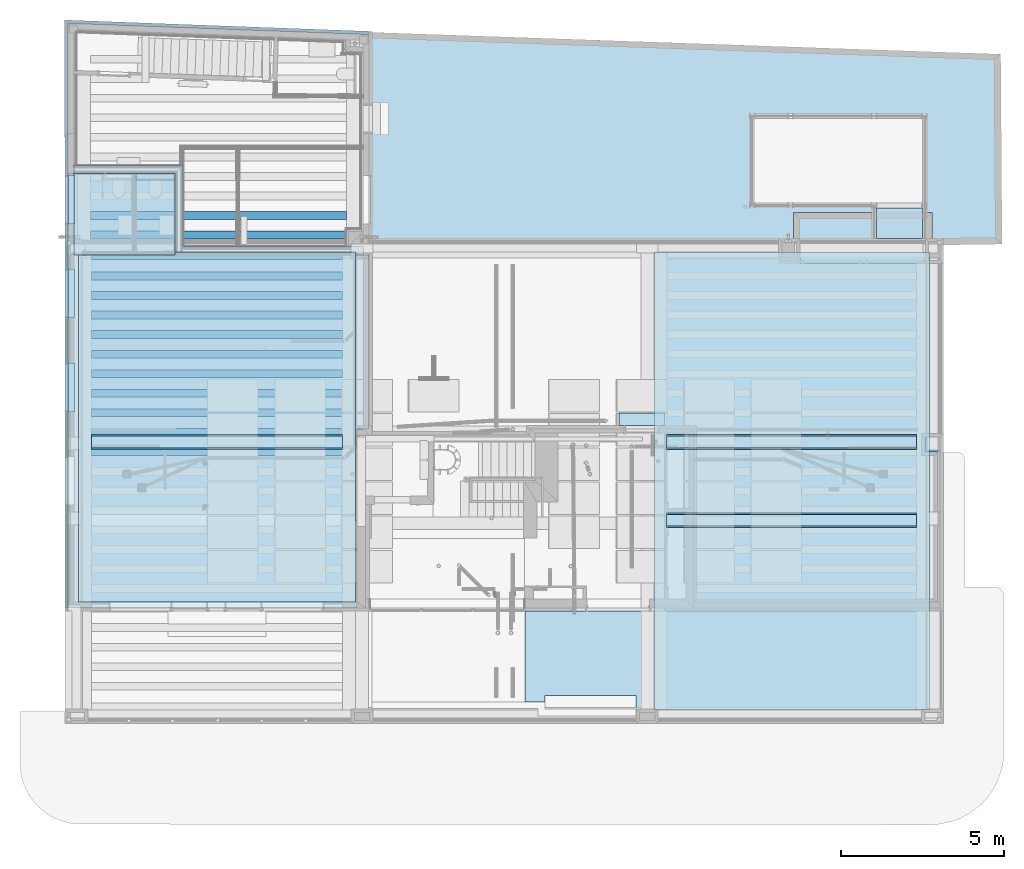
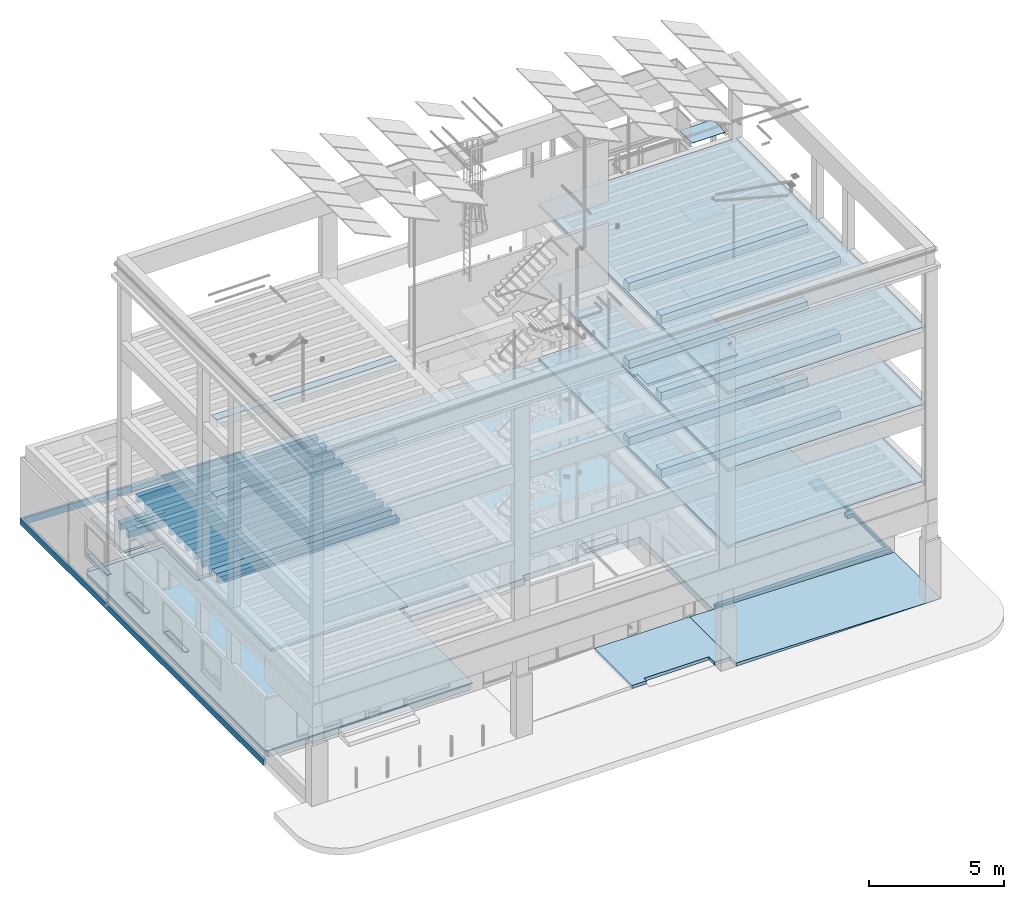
# One storey, part 19 of 106: 48 slabs.
"""IFC2X3 building model written with IfcOpenShell, lengths in metres."""

from ifc_helpers import new_model, entity, si_unit, converted_unit, derived_unit, money_unit, direction, frame, origin_with_axes, place, context, subcontext, project, spatial, faceted_brep, material, type_object, element, save


model = new_model("IFC2X3")

# Units and contexts
model_context = context("Model", 3, precision=1e-05, world=origin_with_axes(), true_north=direction((0.0, 1.0)))
body_context = subcontext(model_context, "Body", "Model", "MODEL_VIEW", scale=1.0)
ifc_project = project(units=[si_unit("LENGTHUNIT", "METRE"), si_unit("AREAUNIT", "SQUARE_METRE"), si_unit("VOLUMEUNIT", "CUBIC_METRE"), si_unit("ABSORBEDDOSEUNIT", "GRAY"), si_unit("AMOUNTOFSUBSTANCEUNIT", "MOLE"), si_unit("DOSEEQUIVALENTUNIT", "SIEVERT"), si_unit("ELECTRICCAPACITANCEUNIT", "FARAD"), si_unit("ELECTRICCHARGEUNIT", "COULOMB"), si_unit("ELECTRICCONDUCTANCEUNIT", "SIEMENS"), si_unit("ELECTRICCURRENTUNIT", "AMPERE"), si_unit("ELECTRICRESISTANCEUNIT", "OHM"), si_unit("ELECTRICVOLTAGEUNIT", "VOLT"), si_unit("ENERGYUNIT", "JOULE"), si_unit("FORCEUNIT", "NEWTON"), si_unit("FREQUENCYUNIT", "HERTZ"), si_unit("ILLUMINANCEUNIT", "LUX"), si_unit("INDUCTANCEUNIT", "HENRY"), si_unit("LUMINOUSFLUXUNIT", "LUMEN"), si_unit("LUMINOUSINTENSITYUNIT", "CANDELA"), si_unit("MAGNETICFLUXDENSITYUNIT", "TESLA"), si_unit("MAGNETICFLUXUNIT", "WEBER"), si_unit("MASSUNIT", "GRAM"), converted_unit("PLANEANGLEUNIT", "degree", entity("IfcReal", 0.0174532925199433), si_unit("PLANEANGLEUNIT", "RADIAN"), dimensions=[0, 0, 0, 0, 0, 0, 0]), si_unit("POWERUNIT", "WATT"), si_unit("PRESSUREUNIT", "PASCAL"), si_unit("RADIOACTIVITYUNIT", "BECQUEREL"), si_unit("SOLIDANGLEUNIT", "STERADIAN"), si_unit("THERMODYNAMICTEMPERATUREUNIT", "KELVIN"), si_unit("TIMEUNIT", "SECOND"), derived_unit("ACCELERATIONUNIT", [(si_unit("LENGTHUNIT", "METRE"), 1), (si_unit("TIMEUNIT", "SECOND"), -2)]), derived_unit("ANGULARVELOCITYUNIT", [(converted_unit("PLANEANGLEUNIT", "degree", entity("IfcReal", 0.0174532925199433), si_unit("PLANEANGLEUNIT", "RADIAN"), dimensions=[0, 0, 0, 0, 0, 0, 0]), 1), (si_unit("TIMEUNIT", "SECOND"), -1)]), derived_unit("CURVATUREUNIT", [(converted_unit("PLANEANGLEUNIT", "degree", entity("IfcReal", 0.0174532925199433), si_unit("PLANEANGLEUNIT", "RADIAN"), dimensions=[0, 0, 0, 0, 0, 0, 0]), 1), (si_unit("LENGTHUNIT", "METRE"), -1)]), derived_unit("DYNAMICVISCOSITYUNIT", [(si_unit("PRESSUREUNIT", "PASCAL"), 1), (si_unit("TIMEUNIT", "SECOND"), 1)]), derived_unit("HEATFLUXDENSITYUNIT", [(si_unit("POWERUNIT", "WATT"), 1), (si_unit("LENGTHUNIT", "METRE"), -2)]), derived_unit("HEATINGVALUEUNIT", [(si_unit("ENERGYUNIT", "JOULE"), 1), (si_unit("MASSUNIT", "GRAM"), -1)]), derived_unit("INTEGERCOUNTRATEUNIT", [(si_unit("TIMEUNIT", "SECOND"), -1)]), derived_unit("IONCONCENTRATIONUNIT", [(si_unit("MASSUNIT", "GRAM"), 1), (si_unit("VOLUMEUNIT", "CUBIC_METRE"), -1)]), derived_unit("ISOTHERMALMOISTURECAPACITYUNIT", [(si_unit("VOLUMEUNIT", "CUBIC_METRE"), 1), (si_unit("MASSUNIT", "GRAM"), -1)]), derived_unit("KINEMATICVISCOSITYUNIT", [(si_unit("AREAUNIT", "SQUARE_METRE"), 1), (si_unit("TIMEUNIT", "SECOND"), -1)]), derived_unit("LINEARFORCEUNIT", [(si_unit("FORCEUNIT", "NEWTON"), 1), (si_unit("LENGTHUNIT", "METRE"), -1)]), derived_unit("LINEARMOMENTUNIT", [(si_unit("FORCEUNIT", "NEWTON"), 1), (si_unit("LENGTHUNIT", "METRE"), -1)]), derived_unit("LINEARSTIFFNESSUNIT", [(si_unit("FORCEUNIT", "NEWTON"), 1), (si_unit("LENGTHUNIT", "METRE"), -1)]), derived_unit("LINEARVELOCITYUNIT", [(si_unit("LENGTHUNIT", "METRE"), 1), (si_unit("TIMEUNIT", "SECOND"), -1)]), derived_unit("LUMINOUSINTENSITYDISTRIBUTIONUNIT", [(si_unit("LUMINOUSINTENSITYUNIT", "CANDELA"), 1), (si_unit("LUMINOUSFLUXUNIT", "LUMEN"), -1)]), derived_unit("MASSDENSITYUNIT", [(si_unit("MASSUNIT", "GRAM"), 1), (si_unit("VOLUMEUNIT", "CUBIC_METRE"), -1)]), derived_unit("MASSFLOWRATEUNIT", [(si_unit("MASSUNIT", "GRAM"), 1), (si_unit("TIMEUNIT", "SECOND"), -1)]), derived_unit("MASSPERLENGTHUNIT", [(si_unit("MASSUNIT", "GRAM"), 1), (si_unit("LENGTHUNIT", "METRE"), -1)]), derived_unit("MODULUSOFELASTICITYUNIT", [(si_unit("FORCEUNIT", "NEWTON"), 1), (si_unit("AREAUNIT", "SQUARE_METRE"), -1)]), derived_unit("MODULUSOFLINEARSUBGRADEREACTIONUNIT", [(si_unit("FORCEUNIT", "NEWTON"), 1), (si_unit("LENGTHUNIT", "METRE"), -2)]), derived_unit("MODULUSOFROTATIONALSUBGRADEREACTIONUNIT", [(si_unit("FORCEUNIT", "NEWTON"), 1), (si_unit("LENGTHUNIT", "METRE"), 1)]), derived_unit("MODULUSOFSUBGRADEREACTIONUNIT", [(si_unit("FORCEUNIT", "NEWTON"), 1), (si_unit("VOLUMEUNIT", "CUBIC_METRE"), -1)]), derived_unit("MOISTUREDIFFUSIVITYUNIT", [(si_unit("VOLUMEUNIT", "CUBIC_METRE"), 1), (si_unit("TIMEUNIT", "SECOND"), -1)]), derived_unit("MOLECULARWEIGHTUNIT", [(si_unit("MASSUNIT", "GRAM"), 1), (si_unit("AMOUNTOFSUBSTANCEUNIT", "MOLE"), -1)]), derived_unit("PLANARFORCEUNIT", [(si_unit("FORCEUNIT", "NEWTON"), 1), (si_unit("LENGTHUNIT", "METRE"), -2)]), derived_unit("ROTATIONALFREQUENCYUNIT", [(si_unit("TIMEUNIT", "SECOND"), -1)]), derived_unit("ROTATIONALMASSUNIT", [(si_unit("MASSUNIT", "GRAM"), 1), (si_unit("LENGTHUNIT", "METRE"), 2)]), derived_unit("ROTATIONALSTIFFNESSUNIT", [(si_unit("FORCEUNIT", "NEWTON"), 1), (si_unit("LENGTHUNIT", "METRE"), 1), (converted_unit("PLANEANGLEUNIT", "degree", entity("IfcReal", 0.0174532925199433), si_unit("PLANEANGLEUNIT", "RADIAN"), dimensions=[0, 0, 0, 0, 0, 0, 0]), -1)]), derived_unit("SECTIONAREAINTEGRALUNIT", [(si_unit("LENGTHUNIT", "METRE"), 5)]), derived_unit("SECTIONMODULUSUNIT", [(si_unit("LENGTHUNIT", "METRE"), 3)]), derived_unit("SHEARMODULUSUNIT", [(si_unit("FORCEUNIT", "NEWTON"), 1), (si_unit("AREAUNIT", "SQUARE_METRE"), -1)]), derived_unit("SOUNDPOWERUNIT", [(si_unit("ENERGYUNIT", "JOULE"), 1), (si_unit("TIMEUNIT", "SECOND"), -1)]), derived_unit("SPECIFICHEATCAPACITYUNIT", [(si_unit("FORCEUNIT", "NEWTON"), 1), (si_unit("MASSUNIT", "GRAM"), -1), (si_unit("THERMODYNAMICTEMPERATUREUNIT", "KELVIN"), -1)]), derived_unit("TEMPERATUREGRADIENTUNIT", [(si_unit("THERMODYNAMICTEMPERATUREUNIT", "KELVIN"), 1), (si_unit("LENGTHUNIT", "METRE"), -1)]), derived_unit("THERMALADMITTANCEUNIT", [(si_unit("POWERUNIT", "WATT"), 1), (si_unit("AREAUNIT", "SQUARE_METRE"), -1), (si_unit("THERMODYNAMICTEMPERATUREUNIT", "KELVIN"), -1)]), derived_unit("THERMALCONDUCTANCEUNIT", [(si_unit("POWERUNIT", "WATT"), 1), (si_unit("LENGTHUNIT", "METRE"), -1), (si_unit("THERMODYNAMICTEMPERATUREUNIT", "KELVIN"), -1)]), derived_unit("THERMALEXPANSIONCOEFFICIENTUNIT", [(si_unit("THERMODYNAMICTEMPERATUREUNIT", "KELVIN"), -1)]), derived_unit("THERMALRESISTANCEUNIT", [(si_unit("AREAUNIT", "SQUARE_METRE"), 1), (si_unit("POWERUNIT", "WATT"), -1)]), derived_unit("THERMALTRANSMITTANCEUNIT", [(si_unit("POWERUNIT", "WATT"), 1), (si_unit("AREAUNIT", "SQUARE_METRE"), -1), (si_unit("THERMODYNAMICTEMPERATUREUNIT", "KELVIN"), -1)]), derived_unit("TORQUEUNIT", [(si_unit("FORCEUNIT", "NEWTON"), 1), (si_unit("LENGTHUNIT", "METRE"), 1)]), derived_unit("VAPORPERMEABILITYUNIT", [(si_unit("MASSUNIT", "GRAM"), 1), (si_unit("TIMEUNIT", "SECOND"), -1)]), derived_unit("VOLUMETRICFLOWRATEUNIT", [(si_unit("VOLUMEUNIT", "CUBIC_METRE"), 1), (si_unit("TIMEUNIT", "SECOND"), -1)]), derived_unit("WARPINGCONSTANTUNIT", [(si_unit("LENGTHUNIT", "METRE"), 6)]), derived_unit("WARPINGMOMENTUNIT", [(si_unit("FORCEUNIT", "NEWTON"), 1), (si_unit("LENGTHUNIT", "METRE"), 2)]), money_unit("GBP")], contexts=[model_context])

# Site, building, storey
site_placement = place(None, origin_with_axes())
site = spatial("IfcSite", under=ifc_project, at=site_placement, Name="Site", CompositionType="ELEMENT")
building_placement = place(site_placement, origin_with_axes())
building = spatial("IfcBuilding", under=site, at=building_placement, Name="Building01", CompositionType="ELEMENT")
storey_placement = place(building_placement, origin_with_axes())
storey = spatial("IfcBuildingStorey", under=building, at=storey_placement, Name="GF", CompositionType="ELEMENT", Elevation=0.0)

# Slabs
ifc_material_1 = material(Name="A_BSUK_Slabs")
slab_type_1 = type_object("IfcSlabType", Name="A-FloorsSlabs A_BSUK_Slabs", PredefinedType="FLOOR")
placement = place(storey_placement, origin_with_axes())
element("IfcSlab", 1, at=placement, inside=storey, type_object=slab_type_1, material=ifc_material_1, Name="A-FloorsSlabs A_BSUK_Slabs", ObjectType="CompoundSlabLeaf", context=body_context, shape_type="Brep", body=[
    faceted_brep([(22.371797, 14.897172, 2.44), (22.371797, 14.897172, 2.54), (22.371797, 15.695023, 2.54), (22.371797, 15.695023, 2.44), (22.571797, 14.897172, 2.44), (22.571797, 14.897172, 2.54), (22.577154, 14.134296, 2.44), (22.577154, 14.134296, 2.54), (26.429722, 14.134126, 2.44), (26.429722, 14.134126, 2.54), (26.429767, 14.906552, 2.44), (26.429767, 14.906552, 2.54), (26.629767, 14.909522, 2.44), (26.629767, 14.909522, 2.54), (26.629738, 15.705087, 2.44), (26.629738, 15.705087, 2.54)], [[[0, 1, 2, 3]], [[4, 5, 1, 0]], [[6, 7, 5, 4]], [[8, 9, 7, 6]], [[10, 11, 9, 8]], [[12, 13, 11, 10]], [[14, 15, 13, 12]], [[3, 2, 15, 14]], [[1, 5, 7, 9, 11, 13, 15, 2]], [[3, 14, 12, 10, 8, 6, 4, 0]]]),
])
element("IfcSlab", 2, at=placement, inside=storey, type_object=slab_type_1, material=ifc_material_1, Name="A-FloorsSlabs A_BSUK_Slabs", ObjectType="CompoundSlabLeaf", context=body_context, shape_type="Brep", body=[
    faceted_brep([(9.343127, 8.87141, -0.46), (9.343127, 8.87141, -0.16), (9.343127, 21.237229, -0.16), (9.343127, 21.237229, -0.46), (14.27235, 8.87141, -0.46), (14.27235, 8.87141, -0.16), (14.27235, 9.053145, -0.46), (14.27235, 9.053145, -0.16), (19.302772, 9.053145, -0.46), (19.302772, 9.053145, -0.16), (19.302772, 3.559165, -0.46), (19.302772, 3.559165, -0.16), (26.98149, 3.559165, -0.46), (26.98149, 3.559165, -0.16), (26.98149, 6.112111, -0.46), (26.98149, 6.112111, -0.16), (26.98149, 6.511753, -0.46), (26.98149, 6.511753, -0.16), (26.98149, 8.237758, -0.46), (26.98149, 8.237758, -0.16), (26.98149, 8.909531, -0.46), (26.98149, 8.909531, -0.16), (26.98149, 14.134296, -0.46), (26.98149, 14.134296, -0.16), (26.981639, 14.134296, -0.46), (26.981639, 14.134296, -0.16), (26.981707, 14.702806, -0.46), (26.981707, 14.702806, -0.16), (28.782327, 14.728819, -0.46), (28.782327, 14.728819, -0.16), (28.739658, 20.563839, -0.46), (28.739658, 20.563839, -0.16)], [[[0, 1, 2, 3]], [[4, 5, 1, 0]], [[6, 7, 5, 4]], [[8, 9, 7, 6]], [[10, 11, 9, 8]], [[12, 13, 11, 10]], [[14, 15, 13, 12]], [[16, 17, 15, 14]], [[18, 19, 17, 16]], [[20, 21, 19, 18]], [[22, 23, 21, 20]], [[24, 25, 23, 22]], [[26, 27, 25, 24]], [[28, 29, 27, 26]], [[30, 31, 29, 28]], [[3, 2, 31, 30]], [[1, 5, 7, 9, 11, 13, 15, 17, 19, 21, 23, 25, 27, 29, 31, 2]], [[3, 30, 28, 26, 24, 22, 20, 18, 16, 14, 12, 10, 8, 6, 4, 0]]]),
])
element("IfcSlab", 3, at=placement, inside=storey, type_object=slab_type_1, material=ifc_material_1, Name="A-FloorsSlabs A_BSUK_Slabs", ObjectType="CompoundSlabLeaf", context=body_context, shape_type="Brep", body=[
    faceted_brep([(19.402776, 3.558962, -0.16), (19.402776, 3.558962, 0.0), (19.402776, 3.733962, 0.0), (19.402776, 3.733962, -0.16), (26.881285, 3.558962, -0.16), (26.881285, 3.558962, 0.0), (26.881285, 8.809531, -0.16), (26.881285, 8.809531, 0.0), (26.414179, 8.809531, -0.16), (26.414179, 8.809531, 0.0), (26.414179, 8.337758, -0.16), (26.414179, 8.337758, 0.0), (26.795161, 8.337758, -0.16), (26.795161, 8.337758, 0.0), (26.795161, 6.411749, -0.16), (26.795161, 6.411749, 0.0), (26.548156, 6.411749, -0.16), (26.548156, 6.411749, 0.0), (26.548156, 6.212116, -0.16), (26.548156, 6.212116, 0.0), (26.795153, 6.212107, -0.16), (26.795153, 6.212107, 0.0), (26.795285, 3.733574, -0.16), (26.795285, 3.733574, 0.0)], [[[0, 1, 2, 3]], [[4, 5, 1, 0]], [[6, 7, 5, 4]], [[8, 9, 7, 6]], [[10, 11, 9, 8]], [[12, 13, 11, 10]], [[14, 15, 13, 12]], [[16, 17, 15, 14]], [[18, 19, 17, 16]], [[20, 21, 19, 18]], [[22, 23, 21, 20]], [[3, 2, 23, 22]], [[1, 5, 7, 9, 11, 13, 15, 17, 19, 21, 23, 2]], [[3, 22, 20, 18, 16, 14, 12, 10, 8, 6, 4, 0]]]),
])
element("IfcSlab", 4, at=placement, inside=storey, type_object=slab_type_1, material=ifc_material_1, Name="A-FloorsSlabs A_BSUK_Slabs", ObjectType="CompoundSlabLeaf", context=body_context, shape_type="Brep", body=[
    faceted_brep([(14.124099, 0.672774, -0.145), (14.124099, 0.672774, 0.0), (14.124099, 3.458986, 0.0), (14.124099, 3.458986, -0.145), (14.745621, 0.672774, -0.145), (14.745621, 0.672774, 0.0), (14.745621, 0.858775, -0.145), (14.745621, 0.858775, 0.0), (17.533227, 0.858775, -0.145), (17.533227, 0.858775, 0.0), (17.533227, 0.449009, -0.145), (17.533227, 0.449009, 0.0), (18.19829, 0.449009, -0.145), (18.19829, 0.449009, 0.0), (18.19829, 3.458834, -0.145), (18.19829, 3.458834, 0.0)], [[[0, 1, 2, 3]], [[4, 5, 1, 0]], [[6, 7, 5, 4]], [[8, 9, 7, 6]], [[10, 11, 9, 8]], [[12, 13, 11, 10]], [[14, 15, 13, 12]], [[3, 2, 15, 14]], [[1, 5, 7, 9, 11, 13, 15, 2]], [[3, 14, 12, 10, 8, 6, 4, 0]]]),
])
element("IfcSlab", 5, at=placement, inside=storey, type_object=slab_type_1, material=ifc_material_1, Name="A-FloorsSlabs A_BSUK_Slabs", ObjectType="CompoundSlabLeaf", context=body_context, shape_type="Brep", body=[
    faceted_brep([(18.19829, 3.458341, -0.145), (18.19829, -0.000659, -0.145), (18.19829, -0.000659, 0.0), (18.19829, 3.458341, 0.0), (26.981285, 3.458341, -0.145), (26.981285, -0.000659, -0.145)], [[[0, 1, 2, 3]], [[4, 5, 1, 0]], [[3, 2, 5, 4]], [[1, 5, 2]], [[3, 4, 0]]]),
])
element("IfcSlab", 6, at=placement, inside=storey, type_object=slab_type_1, material=ifc_material_1, Name="A-FloorsSlabs A_BSUK_Slabs", ObjectType="CompoundSlabLeaf", context=body_context, shape_type="Brep", body=[
    faceted_brep([(3.380525, 14.4, 0.148), (3.380525, 14.4, 0.198), (9.343127, 14.4, 0.198), (9.343127, 14.4, 0.148), (3.380525, 16.893628, 0.148), (3.380525, 16.893628, 0.198), (0.089614, 16.893493, 0.148), (0.089614, 16.893493, 0.198), (0.10035, 3.559332, 0.148), (0.10035, 3.559332, 0.198), (8.965099, 3.559165, 0.148), (8.965099, 3.559165, 0.198), (8.965226, 9.049365, 0.148), (8.965226, 9.049365, 0.198), (9.343127, 9.049365, 0.148), (9.343127, 9.049365, 0.198)], [[[0, 1, 2, 3]], [[4, 5, 1, 0]], [[6, 7, 5, 4]], [[8, 9, 7, 6]], [[10, 11, 9, 8]], [[12, 13, 11, 10]], [[14, 15, 13, 12]], [[3, 2, 15, 14]], [[1, 5, 7, 9, 11, 13, 15, 2]], [[3, 14, 12, 10, 8, 6, 4, 0]]]),
])
element("IfcSlab", 7, at=placement, inside=storey, type_object=slab_type_1, material=ifc_material_1, Name="A-FloorsSlabs A_BSUK_Slabs", ObjectType="CompoundSlabLeaf", context=body_context, shape_type="Brep", body=[
    faceted_brep([(9.343265, 21.237229, -0.445), (9.343265, 21.237229, -0.145), (9.343265, 21.166058, -0.145), (9.343265, 21.166058, -0.445), (9.343127, 21.237229, -0.445), (9.343127, 21.237229, -0.145), (9.4435, 21.262408, -0.445), (9.4435, 21.262408, -0.145), (-0.013684, 21.61325, -0.445), (-0.013684, 21.61325, -0.145), (-0.013684, 18.020229, -0.445), (-0.013684, 18.020229, -0.145), (0.000677, 18.020229, -0.445), (0.000677, 18.020229, -0.145), (-0.000238, 3.559142, -0.445), (-0.000238, 3.559142, -0.145), (0.10035, 3.559332, -0.445), (0.10035, 3.559332, -0.145), (0.085897, 21.509487, -0.445), (0.085897, 21.509487, -0.145)], [[[0, 1, 2, 3]], [[4, 5, 1, 0]], [[6, 7, 5, 4]], [[8, 9, 7, 6]], [[10, 11, 9, 8]], [[12, 13, 11, 10]], [[14, 15, 13, 12]], [[16, 17, 15, 14]], [[18, 19, 17, 16]], [[3, 2, 19, 18]], [[1, 5, 7, 9, 11, 13, 15, 17, 19, 2]], [[3, 18, 16, 14, 12, 10, 8, 6, 4, 0]]]),
])
element("IfcSlab", 8, at=placement, inside=storey, type_object=slab_type_1, material=ifc_material_1, Name="A-FloorsSlabs A_BSUK_Slabs", ObjectType="CompoundSlabLeaf", context=body_context, shape_type="Brep", body=[
    faceted_brep([(17.018566, 9.152854, -0.16), (17.018566, 9.152854, 0.0), (17.018566, 9.542818, 0.0), (17.018566, 9.542818, -0.16), (18.418566, 9.152854, -0.16), (18.418566, 9.152854, 0.0), (18.418566, 9.542765, -0.16), (18.418566, 9.542765, 0.0)], [[[0, 1, 2, 3]], [[4, 5, 1, 0]], [[6, 7, 5, 4]], [[3, 2, 7, 6]], [[1, 5, 7, 2]], [[3, 6, 4, 0]]]),
])
ifc_material_2 = material(Name="A_BSUK_Ceramic_WallTiles")
element("IfcSlab", 9, at=placement, inside=storey, type_object=slab_type_1, material=ifc_material_2, Name="A-FloorsSlabs A_BSUK_Slabs", ObjectType="CompoundSlabLeaf", context=body_context, shape_type="Brep", body=[
    faceted_brep([(2.180525, 16.693646, 1.873), (2.180525, 16.693646, 1.898), (2.180525, 16.893647, 1.898), (2.180525, 16.893647, 1.873), (3.380525, 16.69365, 1.873), (3.380525, 16.69365, 1.898), (3.380525, 16.893646, 1.873), (3.380525, 16.893646, 1.898)], [[[0, 1, 2, 3]], [[4, 5, 1, 0]], [[6, 7, 5, 4]], [[3, 2, 7, 6]], [[1, 5, 7, 2]], [[3, 6, 4, 0]]]),
])
element("IfcSlab", 10, at=placement, inside=storey, type_object=slab_type_1, material=ifc_material_1, Name="A-FloorsSlabs A_BSUK_Slabs", ObjectType="CompoundSlabLeaf", context=body_context, shape_type="Brep", body=[
    faceted_brep([(0.280357, 3.733332, -0.252), (0.280357, 3.733332, 0.148), (0.280357, 17.143647, 0.148), (0.280357, 17.143647, -0.252), (8.965501, 3.733332, -0.252), (8.965501, 3.733332, 0.148), (8.965501, 9.035141, -0.252), (8.965501, 9.035141, 0.148), (9.173127, 9.035141, -0.252), (9.173127, 9.035141, 0.148), (9.173127, 14.65, -0.252), (9.173127, 14.65, 0.148), (3.630525, 14.65, -0.252), (3.630525, 14.65, 0.148), (3.630525, 17.143647, -0.252), (3.630525, 17.143647, 0.148)], [[[0, 1, 2, 3]], [[4, 5, 1, 0]], [[6, 7, 5, 4]], [[8, 9, 7, 6]], [[10, 11, 9, 8]], [[12, 13, 11, 10]], [[14, 15, 13, 12]], [[3, 2, 15, 14]], [[1, 5, 7, 9, 11, 13, 15, 2]], [[3, 14, 12, 10, 8, 6, 4, 0]]]),
])
element("IfcSlab", 11, at=placement, inside=storey, type_object=slab_type_1, material=ifc_material_1, Name="A-FloorsSlabs A_BSUK_Slabs", ObjectType="CompoundSlabLeaf", context=body_context, shape_type="Brep", body=[
    faceted_brep([(0.42, 14.477504, 4.46), (0.42, 14.477504, 4.475), (8.925, 14.48, 4.475), (8.925, 14.48, 4.46), (0.42, 3.734123, 4.46), (0.42, 3.734123, 4.475), (8.925, 3.733962, 4.46), (8.925, 3.733962, 4.475), (8.925127, 9.049365, 4.46), (8.925127, 9.049365, 4.475), (8.925, 9.049365, 4.46), (8.925, 9.049365, 4.475)], [[[0, 1, 2, 3]], [[4, 5, 1, 0]], [[6, 7, 5, 4]], [[8, 9, 7, 6]], [[10, 11, 9, 8]], [[3, 2, 11, 10]], [[1, 5, 7, 9, 11, 2]], [[3, 10, 8, 6, 4, 0]]]),
])
element("IfcSlab", 12, at=placement, inside=storey, type_object=slab_type_1, material=ifc_material_1, Name="A-FloorsSlabs A_BSUK_Slabs", ObjectType="CompoundSlabLeaf", context=body_context, shape_type="Brep", body=[
    faceted_brep([(0.42, 14.48, 4.475), (0.42, 14.48, 4.49), (8.925, 14.48, 4.49), (8.925, 14.48, 4.475), (0.42, 3.734123, 4.475), (0.42, 3.734123, 4.49), (8.925, 3.733962, 4.475), (8.925, 3.733962, 4.49), (8.925127, 9.049365, 4.475), (8.925127, 9.049365, 4.49), (8.925, 9.049365, 4.475), (8.925, 9.049365, 4.49)], [[[0, 1, 2, 3]], [[4, 5, 1, 0]], [[6, 7, 5, 4]], [[8, 9, 7, 6]], [[10, 11, 9, 8]], [[3, 2, 11, 10]], [[1, 5, 7, 9, 11, 2]], [[3, 10, 8, 6, 4, 0]]]),
])
element("IfcSlab", 13, at=placement, inside=storey, type_object=slab_type_1, material=ifc_material_1, Name="A-FloorsSlabs A_BSUK_Slabs", ObjectType="CompoundSlabLeaf", context=body_context, shape_type="Brep", body=[
    faceted_brep([(3.380525, 16.893628, 2.495), (3.380525, 16.893628, 2.51), (3.380525, 14.4, 2.51), (3.380525, 14.4, 2.495), (0.280851, 16.893647, 2.495), (0.280851, 16.893647, 2.51), (0.280357, 14.4, 2.495), (0.280357, 14.4, 2.51)], [[[0, 1, 2, 3]], [[4, 5, 1, 0]], [[6, 7, 5, 4]], [[3, 2, 7, 6]], [[1, 5, 7, 2]], [[3, 6, 4, 0]]]),
])
element("IfcSlab", 14, at=placement, inside=storey, type_object=slab_type_1, material=ifc_material_1, Name="A-FloorsSlabs A_BSUK_Slabs", ObjectType="CompoundSlabLeaf", context=body_context, shape_type="Brep", body=[
    faceted_brep([(3.380525, 16.893628, 2.51), (3.380525, 16.893628, 2.525), (3.380525, 14.4, 2.525), (3.380525, 14.4, 2.51), (0.280851, 16.893647, 2.51), (0.280851, 16.893647, 2.525), (0.280757, 14.4, 2.51), (0.280757, 14.4, 2.525)], [[[0, 1, 2, 3]], [[4, 5, 1, 0]], [[6, 7, 5, 4]], [[3, 2, 7, 6]], [[1, 5, 7, 2]], [[3, 6, 4, 0]]]),
])
ifc_material_3 = material(Name="A_BSUK_Timber_Miscellaneous")
element("IfcSlab", 15, at=placement, inside=storey, type_object=slab_type_1, material=ifc_material_3, Name="A-FloorsSlabs A_BSUK_Slabs", ObjectType="CompoundSlabLeaf", context=body_context, shape_type="Brep", body=[
    faceted_brep([(0.100088, 16.844813, 0.998), (0.100088, 16.844813, 1.023), (0.287079, 16.844813, 1.023), (0.287079, 16.844813, 0.998), (0.100088, 15.344813, 0.998), (0.100088, 15.344813, 1.023), (0.287079, 15.344813, 0.998), (0.287079, 15.344813, 1.023)], [[[0, 1, 2, 3]], [[4, 5, 1, 0]], [[6, 7, 5, 4]], [[3, 2, 7, 6]], [[1, 5, 7, 2]], [[3, 6, 4, 0]]]),
])
element("IfcSlab", 16, at=placement, inside=storey, type_object=slab_type_1, material=ifc_material_3, Name="A-FloorsSlabs A_BSUK_Slabs", ObjectType="CompoundSlabLeaf", context=body_context, shape_type="Brep", body=[
    faceted_brep([(0.100088, 13.971016, 0.998), (0.100088, 13.971016, 1.023), (0.287079, 13.971016, 1.023), (0.287079, 13.971016, 0.998), (0.100088, 12.471016, 0.998), (0.100088, 12.471016, 1.023), (0.287079, 12.471016, 0.998), (0.287079, 12.471016, 1.023)], [[[0, 1, 2, 3]], [[4, 5, 1, 0]], [[6, 7, 5, 4]], [[3, 2, 7, 6]], [[1, 5, 7, 2]], [[3, 6, 4, 0]]]),
])
element("IfcSlab", 17, at=placement, inside=storey, type_object=slab_type_1, material=ifc_material_3, Name="A-FloorsSlabs A_BSUK_Slabs", ObjectType="CompoundSlabLeaf", context=body_context, shape_type="Brep", body=[
    faceted_brep([(0.100088, 11.077491, 0.998), (0.100088, 11.077491, 1.023), (0.287079, 11.077491, 1.023), (0.287079, 11.077491, 0.998), (0.100088, 9.577491, 0.998), (0.100088, 9.577491, 1.023), (0.287079, 9.577491, 0.998), (0.287079, 9.577491, 1.023)], [[[0, 1, 2, 3]], [[4, 5, 1, 0]], [[6, 7, 5, 4]], [[3, 2, 7, 6]], [[1, 5, 7, 2]], [[3, 6, 4, 0]]]),
])
for number, where, z_axis, x_axis, name in (
    (18, (0.845327, 15.490006, 3.015), (0.0, 0.0, 1.0), (1.0, 0.0, 0.0), "A-FloorsSlabs A_BSUK_Slabs"),
    (19, (0.845327, 14.890006, 3.015), (0.0, 0.0, 1.0), (1.0, 0.0, 0.0), "A-FloorsSlabs A_BSUK_Slabs"),
):
    element("IfcSlab", number, at=place(storey_placement, frame(where, z_axis=z_axis, x_axis=x_axis)), inside=storey, type_object=slab_type_1, material=ifc_material_1, Name=name, ObjectType="A-FloorsSlabs A_BSUK_Slabs", context=body_context, shape_type="Brep", body=[
        faceted_brep([(-0.054648, 0.048571, -0.34), (7.807711, 0.048571, -0.34), (7.807711, 0.0, 0.0), (-0.054648, 0.0, 0.0), (-0.054648, 0.191429, -0.34), (7.807711, 0.191429, -0.34), (-0.054648, 0.24, 0.0), (7.807711, 0.24, 0.0)], [[[0, 1, 2, 3]], [[4, 5, 1, 0]], [[6, 7, 5, 4]], [[3, 2, 7, 6]], [[1, 5, 7, 2]], [[3, 6, 4, 0]]]),
    ])
for number, where, z_axis, x_axis, name in (
    (20, (18.509706, 8.660255, 8.13), (0.0, 0.0, -1.0), (1.0, 0.0, 0.0), "A-FloorsSlabs A_BSUK_Slabs"),
    (21, (18.509706, 6.261429, 8.13), (0.0, 0.0, -1.0), (1.0, 0.0, 0.0), "A-FloorsSlabs A_BSUK_Slabs"),
    (22, (18.509706, 8.660255, 11.62), (0.0, 0.0, -1.0), (1.0, 0.0, 0.0), "A-FloorsSlabs A_BSUK_Slabs"),
    (23, (18.509706, 6.261429, 11.62), (0.0, 0.0, -1.0), (1.0, 0.0, 0.0), "A-FloorsSlabs A_BSUK_Slabs"),
    (24, (18.509706, 8.660255, 4.64), (0.0, 0.0, -1.0), (1.0, 0.0, 0.0), "A-FloorsSlabs A_BSUK_Slabs"),
    (25, (18.509706, 6.261429, 4.64), (0.0, 0.0, -1.0), (1.0, 0.0, 0.0), "A-FloorsSlabs A_BSUK_Slabs"),
):
    element("IfcSlab", number, at=place(storey_placement, frame(where, z_axis=z_axis, x_axis=x_axis)), inside=storey, type_object=slab_type_1, material=ifc_material_1, Name=name, ObjectType="A-FloorsSlabs A_BSUK_Slabs", context=body_context, shape_type="Brep", body=[
        faceted_brep([(-0.026843, -0.168571, -0.34), (7.650294, -0.168571, -0.34), (7.650294, -0.217143, 0.0), (-0.026843, -0.217143, 0.0), (-0.026843, 0.191429, -0.34), (7.650294, 0.191429, -0.34), (-0.026843, 0.24, 0.0), (7.650294, 0.24, 0.0)], [[[0, 1, 2, 3]], [[4, 5, 1, 0]], [[6, 7, 5, 4]], [[3, 2, 7, 6]], [[1, 5, 7, 2]], [[3, 6, 4, 0]]]),
    ])
for number, where, z_axis, x_axis, name in (
    (26, (0.846941, 8.660255, 4.64), (0.0, 0.0, -1.0), (1.0, 0.0, 0.0), "A-FloorsSlabs A_BSUK_Slabs"),
    (27, (0.846941, 8.660255, 8.13), (0.0, 0.0, -1.0), (1.0, 0.0, 0.0), "A-FloorsSlabs A_BSUK_Slabs"),
    (28, (0.846941, 8.660255, 11.62), (0.0, 0.0, -1.0), (1.0, 0.0, 0.0), "A-FloorsSlabs A_BSUK_Slabs"),
):
    element("IfcSlab", number, at=place(storey_placement, frame(where, z_axis=z_axis, x_axis=x_axis)), inside=storey, type_object=slab_type_1, material=ifc_material_1, Name=name, ObjectType="A-FloorsSlabs A_BSUK_Slabs", context=body_context, shape_type="Brep", body=[
        faceted_brep([(-0.026941, -0.168571, -0.34), (7.678059, -0.168571, -0.34), (7.678059, -0.217143, 0.0), (-0.026941, -0.217143, 0.0), (-0.026941, 0.191429, -0.34), (7.678059, 0.191429, -0.34), (-0.026941, 0.24, 0.0), (7.678059, 0.24, 0.0)], [[[0, 1, 2, 3]], [[4, 5, 1, 0]], [[6, 7, 5, 4]], [[3, 2, 7, 6]], [[1, 5, 7, 2]], [[3, 6, 4, 0]]]),
    ])
slab_18_placement = place(storey_placement, frame((0.846941, 14.46, 4.98), z_axis=(0.0, 0.0, 1.0), x_axis=(1.0, 0.0, 0.0)))
element("IfcSlab", 29, at=slab_18_placement, inside=storey, type_object=slab_type_1, material=ifc_material_1, Name="A-FloorsSlabs A_BSUK_Slabs", ObjectType="A-FloorsSlabs A_BSUK_Slabs", context=body_context, shape_type="Brep", body=[
    faceted_brep([(-0.026941, 0.02, 0.0), (7.678059, 0.02, 0.0), (7.678059, 0.02, -0.34), (-0.026941, 0.02, -0.34), (-0.026941, -0.2, 0.0), (7.678059, -0.2, 0.0), (-0.026941, -0.151429, -0.34), (7.678059, -0.151429, -0.34)], [[[0, 1, 2, 3]], [[4, 5, 1, 0]], [[6, 7, 5, 4]], [[3, 2, 7, 6]], [[1, 5, 7, 2]], [[3, 6, 4, 0]]]),
])
for number, where, z_axis, x_axis, name in (
    (30, (0.846941, 12.43, 4.98), (0.0, 0.0, 1.0), (1.0, 0.0, 0.0), "A-FloorsSlabs A_BSUK_Slabs"),
    (31, (0.846941, 11.83, 4.98), (0.0, 0.0, 1.0), (1.0, 0.0, 0.0), "A-FloorsSlabs A_BSUK_Slabs"),
    (32, (0.846941, 13.63, 4.98), (0.0, 0.0, 1.0), (1.0, 0.0, 0.0), "A-FloorsSlabs A_BSUK_Slabs"),
    (33, (0.846941, 13.03, 4.98), (0.0, 0.0, 1.0), (1.0, 0.0, 0.0), "A-FloorsSlabs A_BSUK_Slabs"),
    (34, (0.846941, 10.63, 4.98), (0.0, 0.0, 1.0), (1.0, 0.0, 0.0), "A-FloorsSlabs A_BSUK_Slabs"),
    (35, (0.846941, 10.03, 4.98), (0.0, 0.0, 1.0), (1.0, 0.0, 0.0), "A-FloorsSlabs A_BSUK_Slabs"),
    (36, (0.846941, 11.23, 4.98), (0.0, 0.0, 1.0), (1.0, 0.0, 0.0), "A-FloorsSlabs A_BSUK_Slabs"),
    (37, (0.846941, 8.83, 4.98), (0.0, 0.0, 1.0), (1.0, 0.0, 0.0), "A-FloorsSlabs A_BSUK_Slabs"),
    (38, (0.846941, 8.23, 4.98), (0.0, 0.0, 1.0), (1.0, 0.0, 0.0), "A-FloorsSlabs A_BSUK_Slabs"),
    (39, (0.846941, 9.43, 4.98), (0.0, 0.0, 1.0), (1.0, 0.0, 0.0), "A-FloorsSlabs A_BSUK_Slabs"),
):
    element("IfcSlab", number, at=place(storey_placement, frame(where, z_axis=z_axis, x_axis=x_axis)), inside=storey, type_object=slab_type_1, material=ifc_material_1, Name=name, ObjectType="A-FloorsSlabs A_BSUK_Slabs", context=body_context, shape_type="Brep", body=[
        faceted_brep([(-0.026941, 0.048571, -0.34), (7.678059, 0.048571, -0.34), (7.678059, 0.0, 0.0), (-0.026941, 0.0, 0.0), (-0.026941, 0.191429, -0.34), (7.678059, 0.191429, -0.34), (-0.026941, 0.24, 0.0), (7.678059, 0.24, 0.0)], [[[0, 1, 2, 3]], [[4, 5, 1, 0]], [[6, 7, 5, 4]], [[3, 2, 7, 6]], [[1, 5, 7, 2]], [[3, 6, 4, 0]]]),
    ])
element("IfcSlab", 40, at=placement, inside=storey, type_object=slab_type_1, material=ifc_material_1, Name="A-FloorsSlabs A_BSUK_Slabs", ObjectType="CompoundSlabLeaf", context=body_context, shape_type="Brep", body=[
    faceted_brep([(18.085, 14.48, 8.47), (18.085, 14.48, 8.59), (26.56, 14.48, 8.59), (26.56, 14.48, 8.47), (18.085, 0.42, 8.47), (18.085, 0.42, 8.59), (26.56, 0.42, 8.47), (26.56, 0.42, 8.59)], [[[0, 1, 2, 3]], [[4, 5, 1, 0]], [[6, 7, 5, 4]], [[3, 2, 7, 6]], [[1, 5, 7, 2]], [[3, 6, 4, 0]]]),
])
element("IfcSlab", 41, at=placement, inside=storey, type_object=slab_type_1, material=ifc_material_1, Name="A-FloorsSlabs A_BSUK_Slabs", ObjectType="CompoundSlabLeaf", context=body_context, shape_type="Brep", body=[
    faceted_brep([(18.085, 14.48, 11.96), (18.085, 14.48, 12.08), (26.56, 14.48, 12.08), (26.56, 14.48, 11.96), (18.085, 0.42, 11.96), (18.085, 0.42, 12.08), (26.56, 0.42, 11.96), (26.56, 0.42, 12.08)], [[[0, 1, 2, 3]], [[4, 5, 1, 0]], [[6, 7, 5, 4]], [[3, 2, 7, 6]], [[1, 5, 7, 2]], [[3, 6, 4, 0]]]),
])
element("IfcSlab", 42, at=placement, inside=storey, type_object=slab_type_1, material=ifc_material_1, Name="A-FloorsSlabs A_BSUK_Slabs", ObjectType="CompoundSlabLeaf", context=body_context, shape_type="Brep", body=[
    faceted_brep([(18.085, 14.48, 4.98), (18.085, 14.48, 5.1), (26.56, 14.48, 5.1), (26.56, 14.48, 4.98), (18.085, 0.42, 4.98), (18.085, 0.42, 5.1), (26.56, 0.42, 4.98), (26.56, 0.42, 5.1)], [[[0, 1, 2, 3]], [[4, 5, 1, 0]], [[6, 7, 5, 4]], [[3, 2, 7, 6]], [[1, 5, 7, 2]], [[3, 6, 4, 0]]]),
])
ifc_material_4 = material(Name="A_BSUK_StainlessSteelRailingSystems")
element("IfcSlab", 43, at=placement, inside=storey, type_object=slab_type_1, material=ifc_material_4, Name="A-FloorsSlabs A_BSUK_Slabs", ObjectType="CompoundSlabLeaf", context=body_context, shape_type="Brep", body=[
    faceted_brep([(24.927235, 15.837181, 8.567442), (24.927235, 15.837181, 8.587442), (26.332635, 15.837181, 8.587442), (26.332635, 15.837181, 8.567442), (24.927235, 14.9, 8.567442), (24.927235, 14.9, 8.587442), (26.332635, 14.9, 8.567442), (26.332635, 14.9, 8.587442)], [[[0, 1, 2, 3]], [[4, 5, 1, 0]], [[6, 7, 5, 4]], [[3, 2, 7, 6]], [[1, 5, 7, 2]], [[3, 6, 4, 0]]]),
])
element("IfcSlab", 44, at=placement, inside=storey, type_object=slab_type_1, material=ifc_material_4, Name="A-FloorsSlabs A_BSUK_Slabs", ObjectType="CompoundSlabLeaf", context=body_context, shape_type="Brep", body=[
    faceted_brep([(24.927235, 15.837181, 12.151013), (24.927235, 15.837181, 12.171013), (26.332635, 15.837181, 12.171013), (26.332635, 15.837181, 12.151013), (24.927235, 14.9, 12.151013), (24.927235, 14.9, 12.171013), (26.332635, 14.9, 12.151013), (26.332635, 14.9, 12.171013)], [[[0, 1, 2, 3]], [[4, 5, 1, 0]], [[6, 7, 5, 4]], [[3, 2, 7, 6]], [[1, 5, 7, 2]], [[3, 6, 4, 0]]]),
])
element("IfcSlab", 45, at=placement, inside=storey, type_object=slab_type_1, material=ifc_material_4, Name="A-FloorsSlabs A_BSUK_Slabs", ObjectType="CompoundSlabLeaf", context=body_context, shape_type="Brep", body=[
    faceted_brep([(24.927235, 15.837181, 5.044467), (24.927235, 15.837181, 5.064467), (26.332635, 15.837181, 5.064467), (26.332635, 15.837181, 5.044467), (24.927235, 14.9, 5.044467), (24.927235, 14.9, 5.064467), (26.332635, 14.9, 5.044467), (26.332635, 14.9, 5.064467)], [[[0, 1, 2, 3]], [[4, 5, 1, 0]], [[6, 7, 5, 4]], [[3, 2, 7, 6]], [[1, 5, 7, 2]], [[3, 6, 4, 0]]]),
])
ifc_material_5 = material(Name="A_BSUK_Ceramic_FloorTiles")
slab_type_2 = type_object("IfcSlabType", Name="A-Finishes A_BSUK_Ceramic_FloorTiles", PredefinedType="FLOOR")
element("IfcSlab", 46, at=placement, inside=storey, type_object=slab_type_2, material=ifc_material_5, Name="A-Finishes A_BSUK_Ceramic_FloorTiles", ObjectType="CompoundSlabLeaf", context=body_context, shape_type="Brep", body=[
    faceted_brep([(2.180525, 16.693646, 1.573), (2.180525, 16.693646, 1.598), (2.180525, 16.893647, 1.598), (2.180525, 16.893647, 1.573), (3.380525, 16.69365, 1.573), (3.380525, 16.69365, 1.598), (3.380525, 16.893646, 1.573), (3.380525, 16.893646, 1.598)], [[[0, 1, 2, 3]], [[4, 5, 1, 0]], [[6, 7, 5, 4]], [[3, 2, 7, 6]], [[1, 5, 7, 2]], [[3, 6, 4, 0]]]),
])
ifc_material_6 = material(Name="A_BSUK_ExpandedPolystyreneBoards")
slab_type_3 = type_object("IfcSlabType", Name="A-FloorsSlabs A_BSUK_ExpandedPolystyreneBoards", PredefinedType="FLOOR")
element("IfcSlab", 47, at=placement, inside=storey, type_object=slab_type_3, material=ifc_material_6, Name="A-FloorsSlabs A_BSUK_ExpandedPolystyreneBoards", ObjectType="CompoundSlabLeaf", context=body_context, shape_type="Brep", body=[
    faceted_brep([(0.42, 14.48, 4.49), (0.42, 14.48, 4.59), (8.925, 14.48, 4.59), (8.925, 14.48, 4.49), (0.42, 3.734123, 4.49), (0.42, 3.734123, 4.59), (8.925, 3.733962, 4.49), (8.925, 3.733962, 4.59), (8.925127, 9.049365, 4.49), (8.925127, 9.049365, 4.59), (8.925, 9.049365, 4.49), (8.925, 9.049365, 4.59)], [[[0, 1, 2, 3]], [[4, 5, 1, 0]], [[6, 7, 5, 4]], [[8, 9, 7, 6]], [[10, 11, 9, 8]], [[3, 2, 11, 10]], [[1, 5, 7, 9, 11, 2]], [[3, 10, 8, 6, 4, 0]]]),
])
element("IfcSlab", 48, at=placement, inside=storey, type_object=slab_type_3, material=ifc_material_6, Name="A-FloorsSlabs A_BSUK_ExpandedPolystyreneBoards", ObjectType="CompoundSlabLeaf", context=body_context, shape_type="Brep", body=[
    faceted_brep([(3.380525, 16.893628, 2.525), (3.380525, 16.893628, 2.625), (3.380525, 14.4, 2.625), (3.380525, 14.4, 2.525), (0.280851, 16.893647, 2.525), (0.280851, 16.893647, 2.625), (0.280757, 14.397504, 2.525), (0.280757, 14.397504, 2.625)], [[[0, 1, 2, 3]], [[4, 5, 1, 0]], [[6, 7, 5, 4]], [[3, 2, 7, 6]], [[1, 5, 7, 2]], [[3, 6, 4, 0]]]),
])

save(model, "model.ifc")
